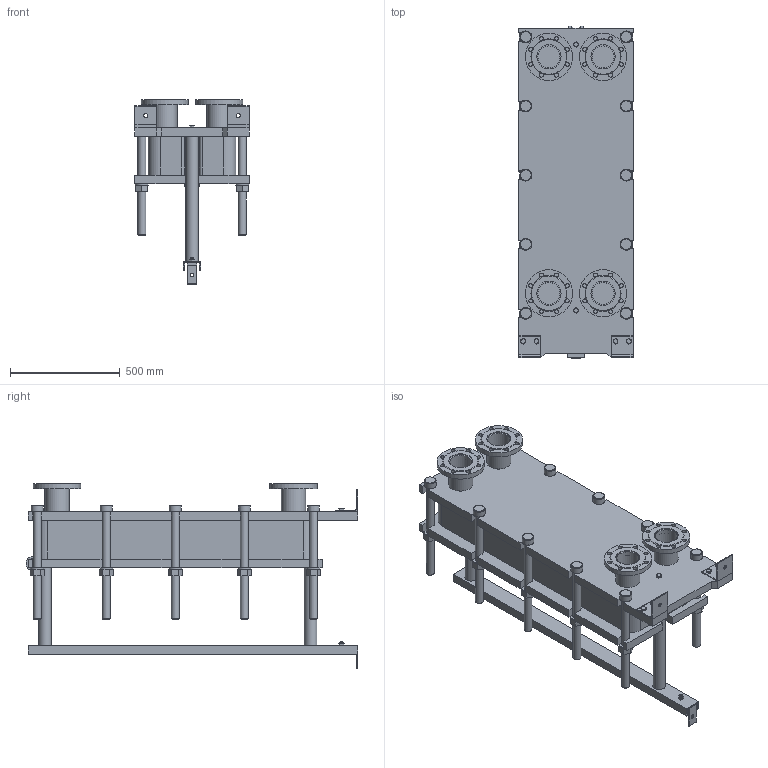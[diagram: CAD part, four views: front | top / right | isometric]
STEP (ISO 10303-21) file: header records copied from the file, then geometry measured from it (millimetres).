
FILE_DESCRIPTION(/* description */ (''),/* implementation_level */ '2;1');
FILE_NAME(/* name */ 'C:\Users\zhuro\Desktop\ENCO\TO\ЭН-04\ЭН-0,5-04-51-1.stp',/* time_stamp */ '2022-06-06T10:48:34+03:00',/* author */ ('zhuro'),/* organization */ (''),/* preprocessor_version */ 'ST-DEVELOPER v18.1',/* originating_system */ 'Autodesk Inventor 2022',/* authorisation */ '');
FILE_SCHEMA (('AUTOMOTIVE_DESIGN { 1 0 10303 214 3 1 1 }'));
Length unit declared in the file: millimetre
Products named in the file (1): ЭН-0,5-04-51-1
Bounding box: 520 x 1510 x 845.5 mm (x, y, z)
Volume: 156500180.9 mm3; surface area: 7277747.3 mm2
Topology: 45 solids, 45 shells, 668 faces, 1611 edges, 1048 vertices
Faces by surface type: plane 457, cylinder 166, cone 39, torus 6
Full cylindrical faces by diameter (mm): 8 x4, 10 x2, 16 x8, 18 x35, 36 x25, 40 x2, 42 x1, 45 x4, 54 x10, 57 x2, 60 x10, 68 x2, 100 x4, 110 x8, 215 x4
Entity records: 23607 total; most frequent: CARTESIAN_POINT 7348, DIRECTION 3371, ORIENTED_EDGE 3142, EDGE_CURVE 1571, AXIS2_PLACEMENT_3D 1199, VERTEX_POINT 1044, LINE 973, VECTOR 973
